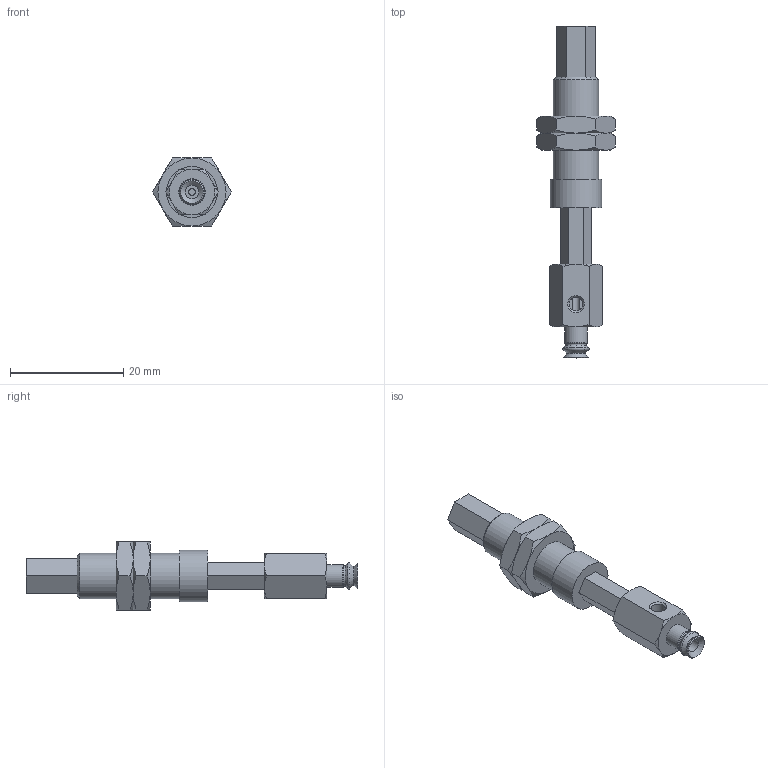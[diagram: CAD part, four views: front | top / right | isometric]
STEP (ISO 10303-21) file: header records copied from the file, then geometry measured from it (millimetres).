
FILE_DESCRIPTION(('STEP AP203'),'1');
FILE_NAME('.stp','2025-04-24T05:08:01',(' '),(' '),'Spatial InterOp 3D',' ',' ');
FILE_SCHEMA(('CONFIG_CONTROL_DESIGN'));
Length unit declared in the file: millimetre
Products named in the file (6): BNABPJYH-4-10-※; CONNECTOR-H-2A-10; Nut-2A-10-h; NAPFTH-2A-10-FBODY; NAPFTH-2A-10-MBODY; BPJG-4-※
Assembly tree (6 placements, depth 2):
  BNABPJYH-4-10-※
    CONNECTOR-H-2A-10
    Nut-2A-10-h  x2
    NAPFTH-2A-10-FBODY
    NAPFTH-2A-10-MBODY
    BPJG-4-※
Bounding box: 13.86 x 58.5 x 12 mm (x, y, z)
Volume: 2772.4 mm3; surface area: 3347.6 mm2
Topology: 6 solids, 6 shells, 140 faces, 308 edges, 187 vertices
Faces by surface type: plane 63, cone 54, cylinder 14, torus 9
Full cylindrical faces by diameter (mm): 1.2 x1, 2 x2, 2.4 x1, 2.459 x2, 3 x3, 4 x1, 7.188 x2, 8 x1, 9 x1
Entity records: 3480 total; most frequent: CARTESIAN_POINT 830, DIRECTION 482, ORIENTED_EDGE 428, EDGE_CURVE 214, AXIS2_PLACEMENT_3D 198, EDGE_LOOP 170, VERTEX_POINT 150, FACE_OUTER_BOUND 139
